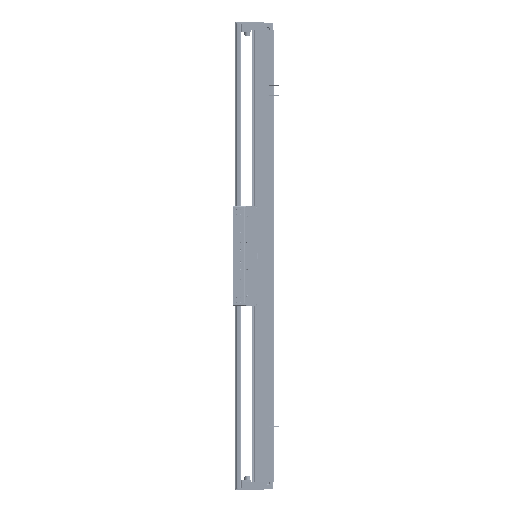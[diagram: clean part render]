
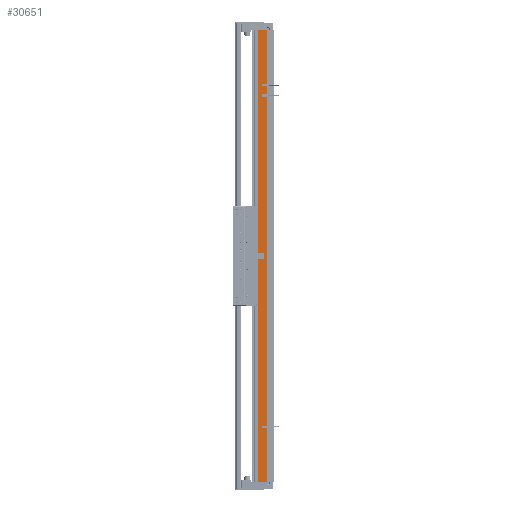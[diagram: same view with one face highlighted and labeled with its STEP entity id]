
A CAD part, left-side view. The second image highlights one B-rep face of the part: STEP entity #30651.
In plain terms, the highlighted planar face has unit normal (-1, 0, 0).
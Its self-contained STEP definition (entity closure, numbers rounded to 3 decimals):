
#396 = FACE_OUTER_BOUND ( 'NONE', #24521, .T. ) ;
#5491 = VECTOR ( 'NONE', #115593, 1000. ) ;
#13022 = CARTESIAN_POINT ( 'NONE',  ( -97.5, 14.45, 570. ) ) ;
#13557 = ORIENTED_EDGE ( 'NONE', *, *, #44407, .F. ) ;
#16717 = CARTESIAN_POINT ( 'NONE',  ( -97.5, 36.95, -570. ) ) ;
#24521 = EDGE_LOOP ( 'NONE', ( #92652, #13557, #31322, #140382 ) ) ;
#25151 = VECTOR ( 'NONE', #75350, 1000. ) ;
#25952 = CARTESIAN_POINT ( 'NONE',  ( -97.5, 14.45, -570. ) ) ;
#28244 = LINE ( 'NONE', #72896, #71136 ) ;
#30651 = ADVANCED_FACE ( 'NONE', ( #396 ), #40229, .F. ) ;
#31322 = ORIENTED_EDGE ( 'NONE', *, *, #91119, .F. ) ;
#39033 = CARTESIAN_POINT ( 'NONE',  ( -97.5, 36.95, 570. ) ) ;
#40229 = PLANE ( 'NONE',  #51514 ) ;
#44407 = EDGE_CURVE ( 'NONE', #100121, #78081, #141272, .T. ) ;
#48978 = LINE ( 'NONE', #16717, #5491 ) ;
#51131 = CARTESIAN_POINT ( 'NONE',  ( -97.5, 36.95, -570. ) ) ;
#51514 = AXIS2_PLACEMENT_3D ( 'NONE', #77304, #85610, #110954 ) ;
#54526 = DIRECTION ( 'NONE',  ( 0., -1., 0. ) ) ;
#66371 = VERTEX_POINT ( 'NONE', #39033 ) ;
#71136 = VECTOR ( 'NONE', #96299, 1000. ) ;
#72896 = CARTESIAN_POINT ( 'NONE',  ( -97.5, 36.95, 570. ) ) ;
#75350 = DIRECTION ( 'NONE',  ( 0., 0., -1. ) ) ;
#77304 = CARTESIAN_POINT ( 'NONE',  ( -97.5, 36.95, 570. ) ) ;
#78081 = VERTEX_POINT ( 'NONE', #25952 ) ;
#85610 = DIRECTION ( 'NONE',  ( 1., 0., 0. ) ) ;
#91119 = EDGE_CURVE ( 'NONE', #66371, #100121, #132863, .T. ) ;
#92601 = VERTEX_POINT ( 'NONE', #51131 ) ;
#92652 = ORIENTED_EDGE ( 'NONE', *, *, #126169, .T. ) ;
#96299 = DIRECTION ( 'NONE',  ( 0., 0., -1. ) ) ;
#99377 = EDGE_CURVE ( 'NONE', #66371, #92601, #28244, .T. ) ;
#100121 = VERTEX_POINT ( 'NONE', #13022 ) ;
#110136 = CARTESIAN_POINT ( 'NONE',  ( -97.5, 36.95, 570. ) ) ;
#110954 = DIRECTION ( 'NONE',  ( 0., 1., 0. ) ) ;
#115593 = DIRECTION ( 'NONE',  ( 0., -1., 0. ) ) ;
#117493 = VECTOR ( 'NONE', #54526, 1000. ) ;
#126169 = EDGE_CURVE ( 'NONE', #92601, #78081, #48978, .T. ) ;
#132863 = LINE ( 'NONE', #110136, #117493 ) ;
#140382 = ORIENTED_EDGE ( 'NONE', *, *, #99377, .T. ) ;
#141272 = LINE ( 'NONE', #142705, #25151 ) ;
#142705 = CARTESIAN_POINT ( 'NONE',  ( -97.5, 14.45, 570. ) ) ;
